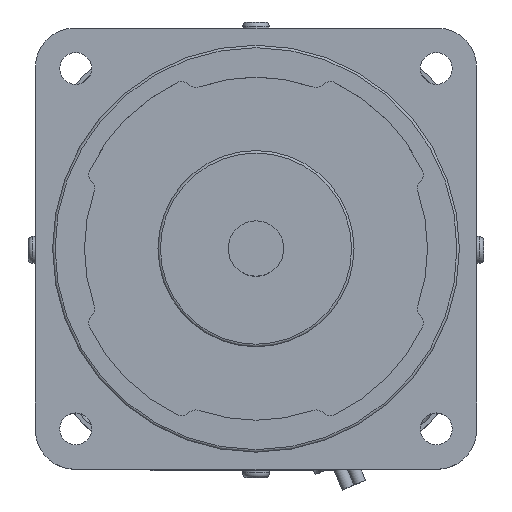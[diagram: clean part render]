
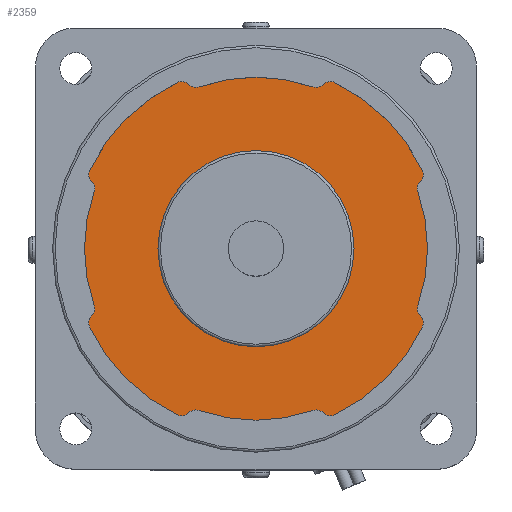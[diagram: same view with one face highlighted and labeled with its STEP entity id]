
A CAD part, top view. The second image highlights one B-rep face of the part: STEP entity #2359.
In plain terms, the highlighted planar face has unit normal (0, 0, 1).
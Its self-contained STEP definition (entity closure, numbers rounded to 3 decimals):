
#1009=CARTESIAN_POINT('',(20.0,0.,197.0));
#1010=VERTEX_POINT('',#1009);
#1011=CARTESIAN_POINT('',(0.,0.,197.0));
#1012=DIRECTION('',(0.0,0.0,-1.0));
#1013=DIRECTION('',(-1.0,0.0,0.0));
#1014=AXIS2_PLACEMENT_3D('',#1011,#1012,#1013);
#1015=CIRCLE('',#1014,20.0);
#1016=EDGE_CURVE('',#1010,#1010,#1015,.T.);
#1039=CARTESIAN_POINT('',(-13.722,-33.501,197.0));
#1040=VERTEX_POINT('',#1039);
#1056=CARTESIAN_POINT('',(-11.626,-33.013,197.0));
#1057=VERTEX_POINT('',#1056);
#1064=CARTESIAN_POINT('',(-12.291,-34.899,197.0));
#1065=DIRECTION('',(0.0,0.0,-1.0));
#1066=DIRECTION('',(-0.408,0.913,0.0));
#1067=AXIS2_PLACEMENT_3D('',#1064,#1065,#1066);
#1068=CIRCLE('',#1067,2.0);
#1069=EDGE_CURVE('',#1057,#1040,#1068,.F.);
#1089=CARTESIAN_POINT('',(11.626,-33.013,197.0));
#1090=VERTEX_POINT('',#1089);
#1097=CARTESIAN_POINT('',(0.,0.,197.0));
#1098=DIRECTION('',(0.,0.,1.0));
#1099=DIRECTION('',(-0.383,-0.924,0.));
#1100=AXIS2_PLACEMENT_3D('',#1097,#1098,#1099);
#1101=CIRCLE('',#1100,35.0);
#1102=EDGE_CURVE('',#1057,#1090,#1101,.T.);
#1112=CARTESIAN_POINT('',(13.722,-33.501,197.0));
#1113=VERTEX_POINT('',#1112);
#1122=CARTESIAN_POINT('',(12.291,-34.899,197.0));
#1123=DIRECTION('',(0.0,0.0,-1.0));
#1124=DIRECTION('',(0.408,0.913,0.0));
#1125=AXIS2_PLACEMENT_3D('',#1122,#1123,#1124);
#1126=CIRCLE('',#1125,2.0);
#1127=EDGE_CURVE('',#1113,#1090,#1126,.F.);
#1154=CARTESIAN_POINT('',(16.006,-33.913,197.0));
#1155=VERTEX_POINT('',#1154);
#1162=CARTESIAN_POINT('',(15.152,-32.104,197.0));
#1163=DIRECTION('',(0.0,0.0,1.0));
#1164=DIRECTION('',(0.715,0.699,0.0));
#1165=AXIS2_PLACEMENT_3D('',#1162,#1163,#1164);
#1166=CIRCLE('',#1165,2.);
#1167=EDGE_CURVE('',#1113,#1155,#1166,.T.);
#1178=CARTESIAN_POINT('',(33.913,-16.006,197.0));
#1179=VERTEX_POINT('',#1178);
#1188=CARTESIAN_POINT('',(0.,0.,197.0));
#1189=DIRECTION('',(0.,0.,1.0));
#1190=DIRECTION('',(0.383,-0.924,0.));
#1191=AXIS2_PLACEMENT_3D('',#1188,#1189,#1190);
#1192=CIRCLE('',#1191,37.5);
#1193=EDGE_CURVE('',#1155,#1179,#1192,.T.);
#1220=CARTESIAN_POINT('',(33.501,-13.722,197.0));
#1221=VERTEX_POINT('',#1220);
#1228=CARTESIAN_POINT('',(32.104,-15.152,197.0));
#1229=DIRECTION('',(0.0,0.0,1.0));
#1230=DIRECTION('',(-0.904,0.427,0.0));
#1231=AXIS2_PLACEMENT_3D('',#1228,#1229,#1230);
#1232=CIRCLE('',#1231,2.);
#1233=EDGE_CURVE('',#1179,#1221,#1232,.T.);
#1254=CARTESIAN_POINT('',(33.013,-11.626,197.0));
#1255=VERTEX_POINT('',#1254);
#1262=CARTESIAN_POINT('',(34.899,-12.291,197.0));
#1263=DIRECTION('',(0.0,0.0,-1.0));
#1264=DIRECTION('',(-0.913,-0.408,0.0));
#1265=AXIS2_PLACEMENT_3D('',#1262,#1263,#1264);
#1266=CIRCLE('',#1265,2.0);
#1267=EDGE_CURVE('',#1255,#1221,#1266,.F.);
#1277=CARTESIAN_POINT('',(33.013,11.626,197.0));
#1278=VERTEX_POINT('',#1277);
#1287=CARTESIAN_POINT('',(0.,0.,197.0));
#1288=DIRECTION('',(0.,0.,1.0));
#1289=DIRECTION('',(0.924,-0.383,0.));
#1290=AXIS2_PLACEMENT_3D('',#1287,#1288,#1289);
#1291=CIRCLE('',#1290,35.);
#1292=EDGE_CURVE('',#1255,#1278,#1291,.T.);
#1310=CARTESIAN_POINT('',(33.501,13.722,197.0));
#1311=VERTEX_POINT('',#1310);
#1320=CARTESIAN_POINT('',(34.899,12.291,197.0));
#1321=DIRECTION('',(0.0,0.0,-1.0));
#1322=DIRECTION('',(-0.913,0.408,0.0));
#1323=AXIS2_PLACEMENT_3D('',#1320,#1321,#1322);
#1324=CIRCLE('',#1323,2.0);
#1325=EDGE_CURVE('',#1311,#1278,#1324,.F.);
#1352=CARTESIAN_POINT('',(33.913,16.006,197.0));
#1353=VERTEX_POINT('',#1352);
#1360=CARTESIAN_POINT('',(32.104,15.152,197.0));
#1361=DIRECTION('',(0.0,0.0,1.0));
#1362=DIRECTION('',(-0.699,0.715,0.0));
#1363=AXIS2_PLACEMENT_3D('',#1360,#1361,#1362);
#1364=CIRCLE('',#1363,2.);
#1365=EDGE_CURVE('',#1311,#1353,#1364,.T.);
#1376=CARTESIAN_POINT('',(16.006,33.913,197.0));
#1377=VERTEX_POINT('',#1376);
#1386=CARTESIAN_POINT('',(0.,0.,197.0));
#1387=DIRECTION('',(0.,0.,1.0));
#1388=DIRECTION('',(0.924,0.383,0.));
#1389=AXIS2_PLACEMENT_3D('',#1386,#1387,#1388);
#1390=CIRCLE('',#1389,37.5);
#1391=EDGE_CURVE('',#1353,#1377,#1390,.T.);
#1418=CARTESIAN_POINT('',(13.722,33.501,197.0));
#1419=VERTEX_POINT('',#1418);
#1426=CARTESIAN_POINT('',(15.152,32.104,197.0));
#1427=DIRECTION('',(0.0,0.0,1.0));
#1428=DIRECTION('',(-0.427,-0.904,0.0));
#1429=AXIS2_PLACEMENT_3D('',#1426,#1427,#1428);
#1430=CIRCLE('',#1429,2.);
#1431=EDGE_CURVE('',#1377,#1419,#1430,.T.);
#1452=CARTESIAN_POINT('',(11.626,33.013,197.0));
#1453=VERTEX_POINT('',#1452);
#1460=CARTESIAN_POINT('',(12.291,34.899,197.0));
#1461=DIRECTION('',(0.0,0.0,-1.0));
#1462=DIRECTION('',(0.408,-0.913,0.0));
#1463=AXIS2_PLACEMENT_3D('',#1460,#1461,#1462);
#1464=CIRCLE('',#1463,2.0);
#1465=EDGE_CURVE('',#1453,#1419,#1464,.F.);
#1475=CARTESIAN_POINT('',(-11.626,33.013,197.0));
#1476=VERTEX_POINT('',#1475);
#1485=CARTESIAN_POINT('',(0.,0.,197.0));
#1486=DIRECTION('',(0.,0.,1.0));
#1487=DIRECTION('',(0.383,0.924,0.));
#1488=AXIS2_PLACEMENT_3D('',#1485,#1486,#1487);
#1489=CIRCLE('',#1488,35.0);
#1490=EDGE_CURVE('',#1453,#1476,#1489,.T.);
#1508=CARTESIAN_POINT('',(-13.722,33.501,197.0));
#1509=VERTEX_POINT('',#1508);
#1518=CARTESIAN_POINT('',(-12.291,34.899,197.0));
#1519=DIRECTION('',(0.0,0.0,-1.0));
#1520=DIRECTION('',(-0.408,-0.913,0.0));
#1521=AXIS2_PLACEMENT_3D('',#1518,#1519,#1520);
#1522=CIRCLE('',#1521,2.0);
#1523=EDGE_CURVE('',#1509,#1476,#1522,.F.);
#1550=CARTESIAN_POINT('',(-16.006,33.913,197.0));
#1551=VERTEX_POINT('',#1550);
#1558=CARTESIAN_POINT('',(-15.152,32.104,197.0));
#1559=DIRECTION('',(0.0,0.0,1.0));
#1560=DIRECTION('',(-0.715,-0.699,0.0));
#1561=AXIS2_PLACEMENT_3D('',#1558,#1559,#1560);
#1562=CIRCLE('',#1561,2.);
#1563=EDGE_CURVE('',#1509,#1551,#1562,.T.);
#1584=CARTESIAN_POINT('',(-33.913,16.006,197.0));
#1585=VERTEX_POINT('',#1584);
#1592=CARTESIAN_POINT('',(0.,0.,197.0));
#1593=DIRECTION('',(0.,0.,1.0));
#1594=DIRECTION('',(-0.383,0.924,0.));
#1595=AXIS2_PLACEMENT_3D('',#1592,#1593,#1594);
#1596=CIRCLE('',#1595,37.5);
#1597=EDGE_CURVE('',#1551,#1585,#1596,.T.);
#1616=CARTESIAN_POINT('',(-33.501,13.722,197.0));
#1617=VERTEX_POINT('',#1616);
#1624=CARTESIAN_POINT('',(-32.104,15.152,197.0));
#1625=DIRECTION('',(0.0,0.0,1.0));
#1626=DIRECTION('',(0.904,-0.427,0.0));
#1627=AXIS2_PLACEMENT_3D('',#1624,#1625,#1626);
#1628=CIRCLE('',#1627,2.);
#1629=EDGE_CURVE('',#1585,#1617,#1628,.T.);
#1650=CARTESIAN_POINT('',(-33.013,11.626,197.0));
#1651=VERTEX_POINT('',#1650);
#1658=CARTESIAN_POINT('',(-34.899,12.291,197.0));
#1659=DIRECTION('',(0.0,0.0,-1.0));
#1660=DIRECTION('',(0.913,0.408,0.0));
#1661=AXIS2_PLACEMENT_3D('',#1658,#1659,#1660);
#1662=CIRCLE('',#1661,2.0);
#1663=EDGE_CURVE('',#1651,#1617,#1662,.F.);
#1673=CARTESIAN_POINT('',(-33.013,-11.626,197.0));
#1674=VERTEX_POINT('',#1673);
#1683=CARTESIAN_POINT('',(0.,0.,197.0));
#1684=DIRECTION('',(0.,0.,1.0));
#1685=DIRECTION('',(-0.924,0.383,0.));
#1686=AXIS2_PLACEMENT_3D('',#1683,#1684,#1685);
#1687=CIRCLE('',#1686,35.0);
#1688=EDGE_CURVE('',#1651,#1674,#1687,.T.);
#1706=CARTESIAN_POINT('',(-33.501,-13.722,197.0));
#1707=VERTEX_POINT('',#1706);
#1716=CARTESIAN_POINT('',(-34.899,-12.291,197.0));
#1717=DIRECTION('',(0.0,0.0,-1.0));
#1718=DIRECTION('',(0.913,-0.408,0.0));
#1719=AXIS2_PLACEMENT_3D('',#1716,#1717,#1718);
#1720=CIRCLE('',#1719,2.0);
#1721=EDGE_CURVE('',#1707,#1674,#1720,.F.);
#1748=CARTESIAN_POINT('',(-33.913,-16.006,197.0));
#1749=VERTEX_POINT('',#1748);
#1756=CARTESIAN_POINT('',(-32.104,-15.152,197.0));
#1757=DIRECTION('',(0.0,0.0,1.0));
#1758=DIRECTION('',(0.699,-0.715,0.0));
#1759=AXIS2_PLACEMENT_3D('',#1756,#1757,#1758);
#1760=CIRCLE('',#1759,2.);
#1761=EDGE_CURVE('',#1707,#1749,#1760,.T.);
#1772=CARTESIAN_POINT('',(-16.006,-33.913,197.0));
#1773=VERTEX_POINT('',#1772);
#1782=CARTESIAN_POINT('',(0.,0.,197.0));
#1783=DIRECTION('',(0.,0.,1.0));
#1784=DIRECTION('',(-0.924,-0.383,0.));
#1785=AXIS2_PLACEMENT_3D('',#1782,#1783,#1784);
#1786=CIRCLE('',#1785,37.5);
#1787=EDGE_CURVE('',#1749,#1773,#1786,.T.);
#1813=CARTESIAN_POINT('',(-15.152,-32.104,197.0));
#1814=DIRECTION('',(0.0,0.0,1.0));
#1815=DIRECTION('',(0.427,0.904,0.0));
#1816=AXIS2_PLACEMENT_3D('',#1813,#1814,#1815);
#1817=CIRCLE('',#1816,2.);
#1818=EDGE_CURVE('',#1773,#1040,#1817,.T.);
#2325=CARTESIAN_POINT('',(0.,0.,197.0));
#2326=DIRECTION('',(0.0,0.0,1.0));
#2327=DIRECTION('',(1.0,0.0,0.0));
#2328=AXIS2_PLACEMENT_3D('',#2325,#2326,#2327);
#2329=PLANE('',#2328);
#2330=ORIENTED_EDGE('',*,*,#1818,.T.);
#2331=ORIENTED_EDGE('',*,*,#1069,.F.);
#2332=ORIENTED_EDGE('',*,*,#1102,.T.);
#2333=ORIENTED_EDGE('',*,*,#1127,.F.);
#2334=ORIENTED_EDGE('',*,*,#1167,.T.);
#2335=ORIENTED_EDGE('',*,*,#1193,.T.);
#2336=ORIENTED_EDGE('',*,*,#1233,.T.);
#2337=ORIENTED_EDGE('',*,*,#1267,.F.);
#2338=ORIENTED_EDGE('',*,*,#1292,.T.);
#2339=ORIENTED_EDGE('',*,*,#1325,.F.);
#2340=ORIENTED_EDGE('',*,*,#1365,.T.);
#2341=ORIENTED_EDGE('',*,*,#1391,.T.);
#2342=ORIENTED_EDGE('',*,*,#1431,.T.);
#2343=ORIENTED_EDGE('',*,*,#1465,.F.);
#2344=ORIENTED_EDGE('',*,*,#1490,.T.);
#2345=ORIENTED_EDGE('',*,*,#1523,.F.);
#2346=ORIENTED_EDGE('',*,*,#1563,.T.);
#2347=ORIENTED_EDGE('',*,*,#1597,.T.);
#2348=ORIENTED_EDGE('',*,*,#1629,.T.);
#2349=ORIENTED_EDGE('',*,*,#1663,.F.);
#2350=ORIENTED_EDGE('',*,*,#1688,.T.);
#2351=ORIENTED_EDGE('',*,*,#1721,.F.);
#2352=ORIENTED_EDGE('',*,*,#1761,.T.);
#2353=ORIENTED_EDGE('',*,*,#1787,.T.);
#2354=EDGE_LOOP('',(#2330,#2331,#2332,#2333,#2334,#2335,#2336,#2337,#2338,#2339,#2340,#2341,#2342,#2343,#2344,#2345,#2346,#2347,#2348,#2349,#2350,#2351,#2352,#2353));
#2355=FACE_OUTER_BOUND('',#2354,.T.);
#2356=ORIENTED_EDGE('',*,*,#1016,.T.);
#2357=EDGE_LOOP('',(#2356));
#2358=FACE_BOUND('',#2357,.T.);
#2359=ADVANCED_FACE('',(#2355,#2358),#2329,.T.);
